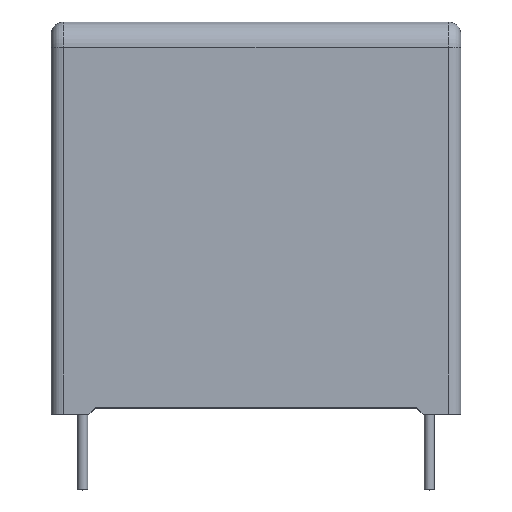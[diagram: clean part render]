
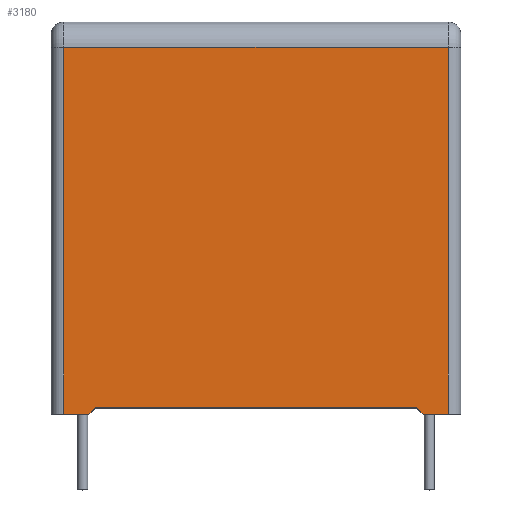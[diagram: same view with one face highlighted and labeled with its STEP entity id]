
A CAD part, top view. The second image highlights one B-rep face of the part: STEP entity #3180.
In plain terms, the highlighted planar face has unit normal (0, 0, 1).
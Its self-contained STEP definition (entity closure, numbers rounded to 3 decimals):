
#13 = EDGE_CURVE ( 'NONE', #1552, #3902, #1058, .T. ) ;
#16 = EDGE_CURVE ( 'NONE', #563, #3902, #1062, .T. ) ;
#45 = DIRECTION ( 'NONE',  ( -0.707, -0.707, 0. ) ) ;
#56 = CARTESIAN_POINT ( 'NONE',  ( -13.25, 0., 10.75 ) ) ;
#110 = DIRECTION ( 'NONE',  ( 1., 0., 0. ) ) ;
#126 = DIRECTION ( 'NONE',  ( 0., 1., 0. ) ) ;
#151 = CARTESIAN_POINT ( 'NONE',  ( -16.25, 0., 10.75 ) ) ;
#563 = VERTEX_POINT ( 'NONE', #920 ) ;
#575 = DIRECTION ( 'NONE',  ( -1., 0., 0. ) ) ;
#578 = VECTOR ( 'NONE', #2221, 1000. ) ;
#601 = PLANE ( 'NONE',  #2971 ) ;
#618 = LINE ( 'NONE', #2857, #578 ) ;
#772 = CARTESIAN_POINT ( 'NONE',  ( 13.25, 0., 10.75 ) ) ;
#920 = CARTESIAN_POINT ( 'NONE',  ( -12.75, 0.5, 10.75 ) ) ;
#1049 = VECTOR ( 'NONE', #45, 1000. ) ;
#1058 = LINE ( 'NONE', #151, #1066 ) ;
#1062 = LINE ( 'NONE', #56, #1049 ) ;
#1066 = VECTOR ( 'NONE', #110, 1000. ) ;
#1077 = VERTEX_POINT ( 'NONE', #3159 ) ;
#1158 = CARTESIAN_POINT ( 'NONE',  ( 12.75, 0.5, 10.75 ) ) ;
#1238 = VECTOR ( 'NONE', #126, 1000. ) ;
#1501 = EDGE_CURVE ( 'NONE', #2974, #1077, #4090, .T. ) ;
#1552 = VERTEX_POINT ( 'NONE', #3474 ) ;
#1591 = DIRECTION ( 'NONE',  ( 0., 0., -1. ) ) ;
#1652 = VECTOR ( 'NONE', #3061, 1000. ) ;
#1704 = VERTEX_POINT ( 'NONE', #4188 ) ;
#1722 = EDGE_CURVE ( 'NONE', #3952, #1704, #2686, .T. ) ;
#1740 = LINE ( 'NONE', #1158, #1652 ) ;
#1811 = CARTESIAN_POINT ( 'NONE',  ( 15.25, 29.1, 10.75 ) ) ;
#1836 = VERTEX_POINT ( 'NONE', #2352 ) ;
#1873 = DIRECTION ( 'NONE',  ( -1., 0., 0. ) ) ;
#2012 = EDGE_CURVE ( 'NONE', #3952, #1836, #1740, .T. ) ;
#2193 = EDGE_CURVE ( 'NONE', #1077, #1552, #618, .T. ) ;
#2221 = DIRECTION ( 'NONE',  ( 0., -1., 0. ) ) ;
#2274 = ORIENTED_EDGE ( 'NONE', *, *, #3085, .F. ) ;
#2279 = CARTESIAN_POINT ( 'NONE',  ( -16.25, 0., 10.75 ) ) ;
#2287 = ORIENTED_EDGE ( 'NONE', *, *, #2012, .F. ) ;
#2297 = ORIENTED_EDGE ( 'NONE', *, *, #1722, .T. ) ;
#2307 = ORIENTED_EDGE ( 'NONE', *, *, #3553, .T. ) ;
#2311 = ORIENTED_EDGE ( 'NONE', *, *, #1501, .T. ) ;
#2318 = ORIENTED_EDGE ( 'NONE', *, *, #2193, .T. ) ;
#2322 = ORIENTED_EDGE ( 'NONE', *, *, #13, .T. ) ;
#2330 = ORIENTED_EDGE ( 'NONE', *, *, #16, .F. ) ;
#2352 = CARTESIAN_POINT ( 'NONE',  ( 12.75, 0.5, 10.75 ) ) ;
#2532 = VECTOR ( 'NONE', #1873, 1000. ) ;
#2686 = LINE ( 'NONE', #2279, #2827 ) ;
#2810 = CARTESIAN_POINT ( 'NONE',  ( -16.25, 29.1, 10.75 ) ) ;
#2824 = LINE ( 'NONE', #3411, #1238 ) ;
#2827 = VECTOR ( 'NONE', #2953, 1000. ) ;
#2857 = CARTESIAN_POINT ( 'NONE',  ( -15.25, 31.1, 10.75 ) ) ;
#2953 = DIRECTION ( 'NONE',  ( 1., 0., 0. ) ) ;
#2971 = AXIS2_PLACEMENT_3D ( 'NONE', #3175, #1591, #3809 ) ;
#2974 = VERTEX_POINT ( 'NONE', #1811 ) ;
#3061 = DIRECTION ( 'NONE',  ( -0.707, 0.707, 0. ) ) ;
#3085 = EDGE_CURVE ( 'NONE', #1836, #563, #4229, .T. ) ;
#3159 = CARTESIAN_POINT ( 'NONE',  ( -15.25, 29.1, 10.75 ) ) ;
#3175 = CARTESIAN_POINT ( 'NONE',  ( -16.25, 31.1, 10.75 ) ) ;
#3180 = ADVANCED_FACE ( 'NONE', ( #3930 ), #601, .F. ) ;
#3411 = CARTESIAN_POINT ( 'NONE',  ( 15.25, 31.1, 10.75 ) ) ;
#3474 = CARTESIAN_POINT ( 'NONE',  ( -15.25, 0., 10.75 ) ) ;
#3527 = CARTESIAN_POINT ( 'NONE',  ( -13.25, 0., 10.75 ) ) ;
#3553 = EDGE_CURVE ( 'NONE', #1704, #2974, #2824, .T. ) ;
#3809 = DIRECTION ( 'NONE',  ( -1., 0., 0. ) ) ;
#3902 = VERTEX_POINT ( 'NONE', #3527 ) ;
#3926 = VECTOR ( 'NONE', #575, 1000. ) ;
#3930 = FACE_OUTER_BOUND ( 'NONE', #4076, .T. ) ;
#3952 = VERTEX_POINT ( 'NONE', #772 ) ;
#4076 = EDGE_LOOP ( 'NONE', ( #2274, #2287, #2297, #2307, #2311, #2318, #2322, #2330 ) ) ;
#4090 = LINE ( 'NONE', #2810, #3926 ) ;
#4106 = CARTESIAN_POINT ( 'NONE',  ( -12.75, 0.5, 10.75 ) ) ;
#4188 = CARTESIAN_POINT ( 'NONE',  ( 15.25, 0., 10.75 ) ) ;
#4229 = LINE ( 'NONE', #4106, #2532 ) ;
